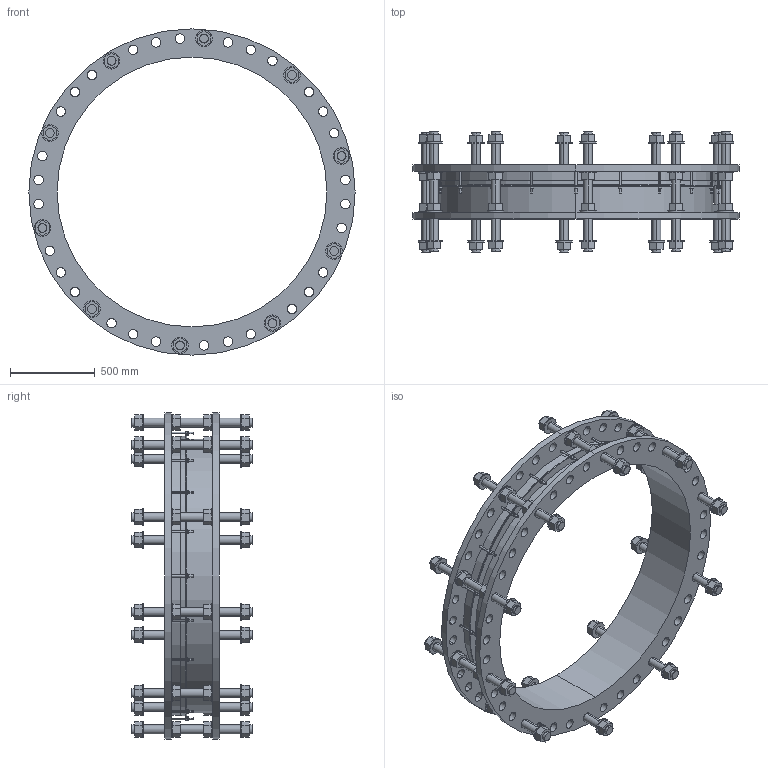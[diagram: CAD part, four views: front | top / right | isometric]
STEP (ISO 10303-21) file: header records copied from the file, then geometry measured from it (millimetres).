
FILE_DESCRIPTION((''),'2;1');
FILE_NAME('A2E_DJ_BIM_ASM','2020-11-30T',('mfairey'),('Glynwed Pipe Systems'),'CREO PARAMETRIC BY PTC INC, 2016130','CREO PARAMETRIC BY PTC INC, 2016130','');
FILE_SCHEMA(('CONFIG_CONTROL_DESIGN'));
Length unit declared in the file: millimetre
Products named in the file (3): DJ_AF0; TIE_BOLT_BIM; A2E_DJ_BIM_ASM
Assembly tree (11 placements, depth 2):
  A2E_DJ_BIM_ASM
    DJ_AF0
    TIE_BOLT_BIM  x10
Bounding box: 1930 x 710 x 1930 mm (x, y, z)
Volume: 106283410.7 mm3; surface area: 9359538.2 mm2
Topology: 11 solids, 11 shells, 1062 faces, 2590 edges, 1712 vertices
Faces by surface type: plane 586, cylinder 472, cone 4
Entity records: 19272 total; most frequent: CARTESIAN_POINT 4428, DIRECTION 3220, ORIENTED_EDGE 2912, EDGE_CURVE 1456, AXIS2_PLACEMENT_3D 1236, VERTEX_POINT 956, EDGE_LOOP 814, VECTOR 748
